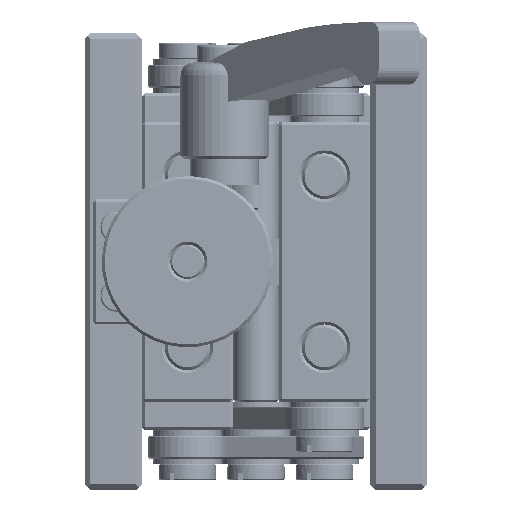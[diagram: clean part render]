
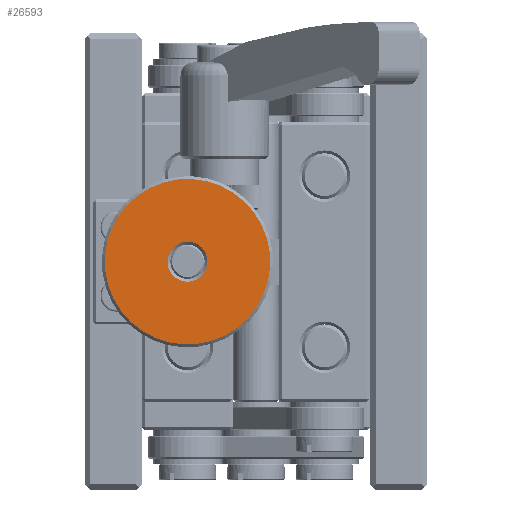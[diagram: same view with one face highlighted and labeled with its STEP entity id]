
A CAD part, left-side view. The second image highlights one B-rep face of the part: STEP entity #26593.
In plain terms, the highlighted planar face has unit normal (-1, 0, 0).
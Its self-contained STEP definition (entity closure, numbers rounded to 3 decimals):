
#4090 = ORIENTED_EDGE ( 'NONE', *, *, #7069, .T. ) ;
#6525 = CARTESIAN_POINT ( 'NONE',  ( -28.581, 48.924, -28.567 ) ) ;
#7069 = EDGE_CURVE ( 'NONE', #43552, #43552, #32843, .T. ) ;
#11198 = DIRECTION ( 'NONE',  ( 0., -0.993, 0.115 ) ) ;
#12875 = EDGE_LOOP ( 'NONE', ( #4090 ) ) ;
#14060 = VERTEX_POINT ( 'NONE', #6525 ) ;
#18669 = CIRCLE ( 'NONE', #70954, 14.5 ) ;
#23613 = CARTESIAN_POINT ( 'NONE',  ( -28.581, 65.048, -15.328 ) ) ;
#26593 = ADVANCED_FACE ( 'NONE', ( #73293, #28351 ), #59868, .T. ) ;
#28351 = FACE_OUTER_BOUND ( 'NONE', #77337, .T. ) ;
#32843 = CIRCLE ( 'NONE', #79764, 3.5 ) ;
#33277 = CARTESIAN_POINT ( 'NONE',  ( -28.581, 63.328, -30.229 ) ) ;
#35565 = DIRECTION ( 'NONE',  ( 1., 0., 0. ) ) ;
#37964 = AXIS2_PLACEMENT_3D ( 'NONE', #23613, #72053, #74856 ) ;
#43552 = VERTEX_POINT ( 'NONE', #51080 ) ;
#51080 = CARTESIAN_POINT ( 'NONE',  ( -28.581, 59.851, -29.828 ) ) ;
#56100 = CARTESIAN_POINT ( 'NONE',  ( -28.581, 63.328, -30.229 ) ) ;
#58469 = DIRECTION ( 'NONE',  ( -1., 0., 0. ) ) ;
#58892 = DIRECTION ( 'NONE',  ( 0., -0.993, 0.115 ) ) ;
#59868 = PLANE ( 'NONE',  #37964 ) ;
#61604 = ORIENTED_EDGE ( 'NONE', *, *, #70128, .T. ) ;
#70128 = EDGE_CURVE ( 'NONE', #14060, #14060, #18669, .T. ) ;
#70954 = AXIS2_PLACEMENT_3D ( 'NONE', #33277, #58469, #58892 ) ;
#72053 = DIRECTION ( 'NONE',  ( -1., 0., 0. ) ) ;
#73293 = FACE_BOUND ( 'NONE', #12875, .T. ) ;
#74856 = DIRECTION ( 'NONE',  ( 0., -0.993, 0.115 ) ) ;
#77337 = EDGE_LOOP ( 'NONE', ( #61604 ) ) ;
#79764 = AXIS2_PLACEMENT_3D ( 'NONE', #56100, #35565, #11198 ) ;
